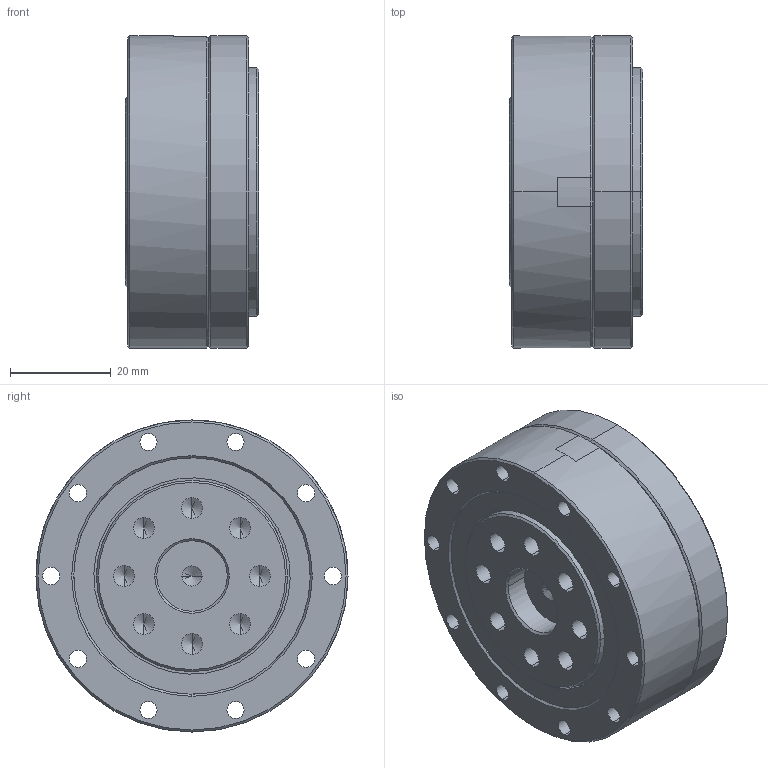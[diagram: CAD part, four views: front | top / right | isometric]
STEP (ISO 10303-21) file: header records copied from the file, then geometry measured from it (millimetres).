
FILE_DESCRIPTION (( 'STEP AP214' ), '1' );
FILE_NAME ('CSD-17-xxx.STEP', '2021-07-17T03:23:55', ( 'PC' ), ( 'Microsoft' ), 'SwSTEP 2.0', 'SolidWorks 2016', '' );
FILE_SCHEMA (( 'AUTOMOTIVE_DESIGN' ));
Length unit declared in the file: millimetre
Products named in the file (13): 17-交叉轴承外圈; 17-交叉轴承内圈; CSD-17-xxx; 内六角圆柱头螺钉M2×6_預設; 17-疏楷汜ん; 芧謫-SF-17; 薄-17柔性轴承; hexagon socket head cap screws gb_GB_FASTENER_SCREWS_HSHCS M4X8-N; CSD-17-詩謫; CSD-17-柔轮; CSD-17蝠脫粣創; 17-蝠脫粣創黑芛; 蝠脫粣創-蚐猾-CSF-17
Assembly tree (23 placements, depth 3):
  CSD-17-xxx
    CSD-17蝠脫粣創
      17-交叉轴承内圈
      17-交叉轴承外圈
      蝠脫粣創-蚐猾-CSF-17
      17-蝠脫粣創黑芛
    CSD-17-柔轮
    CSD-17-詩謫
    hexagon socket head cap screws gb_GB_FASTENER_SCREWS_HSHCS M4X8-N  x8
    17-疏楷汜ん
      薄-17柔性轴承
      芧謫-SF-17
    内六角圆柱头螺钉M2×6_預設  x5
Bounding box: 26.5 x 62 x 62 mm (x, y, z)
Volume: 56273.4 mm3; surface area: 43713.6 mm2
Topology: 21 solids, 21 shells, 2729 faces, 7701 edges, 5026 vertices
Faces by surface type: cylinder 1573, plane 625, cone 461, torus 44, bspline 26
Entity records: 89662 total; most frequent: CARTESIAN_POINT 27238, ORIENTED_EDGE 14166, DIRECTION 11177, EDGE_CURVE 7083, VERTEX_POINT 4683, AXIS2_PLACEMENT_3D 4427, B_SPLINE_CURVE_WITH_KNOTS 2818, EDGE_LOOP 2616
